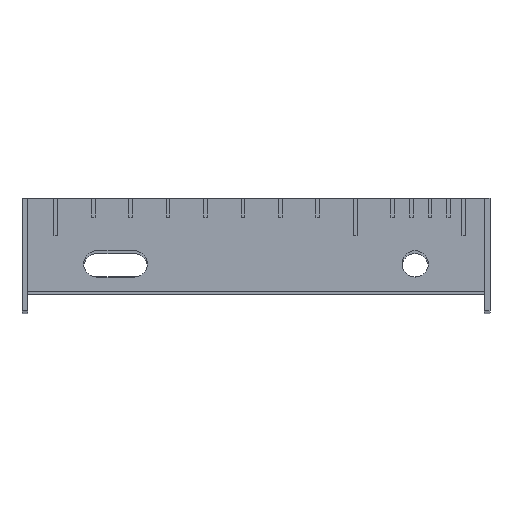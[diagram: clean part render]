
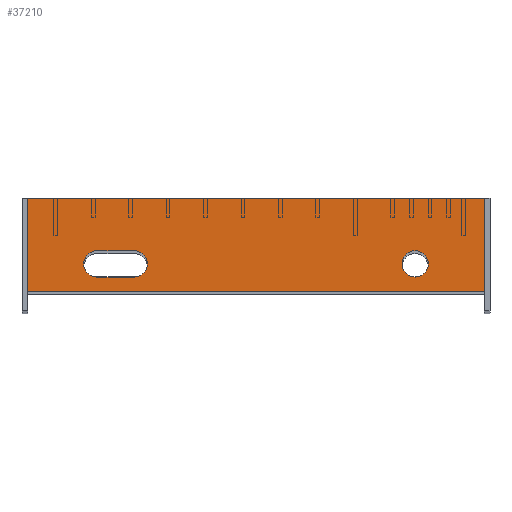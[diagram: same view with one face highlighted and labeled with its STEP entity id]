
A CAD part, top view. The second image highlights one B-rep face of the part: STEP entity #37210.
In plain terms, the highlighted planar face has unit normal (0, 0, 1).
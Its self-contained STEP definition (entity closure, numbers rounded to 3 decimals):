
#1346 = FACE_BOUND ( 'NONE', #13383, .T. ) ;
#1463 = EDGE_LOOP ( 'NONE', ( #58439, #56090, #4724, #34326 ) ) ;
#3205 = CARTESIAN_POINT ( 'NONE',  ( 244., 0., 0. ) ) ;
#4724 = ORIENTED_EDGE ( 'NONE', *, *, #18212, .T. ) ;
#4908 = VECTOR ( 'NONE', #21822, 1000. ) ;
#5035 = CARTESIAN_POINT ( 'NONE',  ( 214., 15., 0. ) ) ;
#6265 = LINE ( 'NONE', #47358, #56574 ) ;
#6297 = CARTESIAN_POINT ( 'NONE',  ( 0., 0., 0. ) ) ;
#8610 = EDGE_CURVE ( 'NONE', #35999, #18298, #55213, .T. ) ;
#8692 = EDGE_CURVE ( 'NONE', #51396, #51604, #39162, .T. ) ;
#8790 = CARTESIAN_POINT ( 'NONE',  ( 57., 15., 0. ) ) ;
#10312 = VECTOR ( 'NONE', #26718, 1000. ) ;
#11360 = VERTEX_POINT ( 'NONE', #5035 ) ;
#13383 = EDGE_LOOP ( 'NONE', ( #54368 ) ) ;
#13707 = DIRECTION ( 'NONE',  ( 1., 0., 0. ) ) ;
#13976 = DIRECTION ( 'NONE',  ( 0., 0., 1. ) ) ;
#14059 = CARTESIAN_POINT ( 'NONE',  ( 0., 0., 0. ) ) ;
#16902 = CARTESIAN_POINT ( 'NONE',  ( 0., 0., 0. ) ) ;
#17263 = AXIS2_PLACEMENT_3D ( 'NONE', #53292, #24131, #58194 ) ;
#18212 = EDGE_CURVE ( 'NONE', #18298, #28048, #22661, .T. ) ;
#18298 = VERTEX_POINT ( 'NONE', #38063 ) ;
#18978 = PLANE ( 'NONE',  #38577 ) ;
#19267 = EDGE_CURVE ( 'NONE', #59230, #19444, #23265, .T. ) ;
#19444 = VERTEX_POINT ( 'NONE', #52482 ) ;
#19942 = CARTESIAN_POINT ( 'NONE',  ( 37., 22., 0. ) ) ;
#20829 = EDGE_CURVE ( 'NONE', #46783, #35999, #6265, .T. ) ;
#21822 = DIRECTION ( 'NONE',  ( 1., 0., 0. ) ) ;
#21861 = CARTESIAN_POINT ( 'NONE',  ( 57., 8., 0. ) ) ;
#22227 = CARTESIAN_POINT ( 'NONE',  ( 57., 22., 0. ) ) ;
#22445 = DIRECTION ( 'NONE',  ( -1., 0., 0. ) ) ;
#22661 = LINE ( 'NONE', #3205, #59992 ) ;
#23265 = LINE ( 'NONE', #21861, #10312 ) ;
#23869 = DIRECTION ( 'NONE',  ( 0., 0., -1. ) ) ;
#23906 = AXIS2_PLACEMENT_3D ( 'NONE', #43125, #13976, #48047 ) ;
#24131 = DIRECTION ( 'NONE',  ( 0., 0., 1. ) ) ;
#25465 = CIRCLE ( 'NONE', #44573, 7. ) ;
#26718 = DIRECTION ( 'NONE',  ( 1., 0., 0. ) ) ;
#28048 = VERTEX_POINT ( 'NONE', #38549 ) ;
#32729 = EDGE_CURVE ( 'NONE', #11360, #11360, #60589, .T. ) ;
#33796 = VECTOR ( 'NONE', #53463, 1000. ) ;
#34085 = CARTESIAN_POINT ( 'NONE',  ( 0., 50., 0. ) ) ;
#34326 = ORIENTED_EDGE ( 'NONE', *, *, #57672, .T. ) ;
#35512 = CARTESIAN_POINT ( 'NONE',  ( 0., 50., 0. ) ) ;
#35542 = ORIENTED_EDGE ( 'NONE', *, *, #19267, .F. ) ;
#35999 = VERTEX_POINT ( 'NONE', #6297 ) ;
#36972 = VECTOR ( 'NONE', #22445, 1000. ) ;
#37210 = ADVANCED_FACE ( 'NONE', ( #51643, #1346, #38617 ), #18978, .F. ) ;
#38063 = CARTESIAN_POINT ( 'NONE',  ( 244., 0., 0. ) ) ;
#38195 = ORIENTED_EDGE ( 'NONE', *, *, #54189, .F. ) ;
#38549 = CARTESIAN_POINT ( 'NONE',  ( 244., 50., 0. ) ) ;
#38577 = AXIS2_PLACEMENT_3D ( 'NONE', #14059, #23869, #57943 ) ;
#38617 = FACE_OUTER_BOUND ( 'NONE', #1463, .T. ) ;
#39162 = LINE ( 'NONE', #22227, #36972 ) ;
#40473 = ORIENTED_EDGE ( 'NONE', *, *, #8692, .F. ) ;
#42841 = DIRECTION ( 'NONE',  ( 0., 0., 1. ) ) ;
#43125 = CARTESIAN_POINT ( 'NONE',  ( 207., 15., 0. ) ) ;
#43971 = EDGE_CURVE ( 'NONE', #19444, #51396, #25465, .T. ) ;
#44573 = AXIS2_PLACEMENT_3D ( 'NONE', #8790, #42841, #13707 ) ;
#46783 = VERTEX_POINT ( 'NONE', #35512 ) ;
#47358 = CARTESIAN_POINT ( 'NONE',  ( 0., 0., 0. ) ) ;
#47415 = EDGE_LOOP ( 'NONE', ( #40473, #53843, #35542, #38195 ) ) ;
#48047 = DIRECTION ( 'NONE',  ( 1., 0., 0. ) ) ;
#51385 = LINE ( 'NONE', #34085, #33796 ) ;
#51396 = VERTEX_POINT ( 'NONE', #57201 ) ;
#51604 = VERTEX_POINT ( 'NONE', #19942 ) ;
#51643 = FACE_BOUND ( 'NONE', #47415, .T. ) ;
#52482 = CARTESIAN_POINT ( 'NONE',  ( 57., 8., 0. ) ) ;
#52488 = CIRCLE ( 'NONE', #17263, 7. ) ;
#53292 = CARTESIAN_POINT ( 'NONE',  ( 37., 15., 0. ) ) ;
#53463 = DIRECTION ( 'NONE',  ( -1., 0., 0. ) ) ;
#53843 = ORIENTED_EDGE ( 'NONE', *, *, #43971, .F. ) ;
#54189 = EDGE_CURVE ( 'NONE', #51604, #59230, #52488, .T. ) ;
#54368 = ORIENTED_EDGE ( 'NONE', *, *, #32729, .F. ) ;
#55213 = LINE ( 'NONE', #16902, #4908 ) ;
#55669 = CARTESIAN_POINT ( 'NONE',  ( 37., 8., 0. ) ) ;
#56090 = ORIENTED_EDGE ( 'NONE', *, *, #8610, .T. ) ;
#56574 = VECTOR ( 'NONE', #62063, 1000. ) ;
#56660 = DIRECTION ( 'NONE',  ( 0., 1., 0. ) ) ;
#57201 = CARTESIAN_POINT ( 'NONE',  ( 57., 22., 0. ) ) ;
#57672 = EDGE_CURVE ( 'NONE', #28048, #46783, #51385, .T. ) ;
#57943 = DIRECTION ( 'NONE',  ( -1., 0., 0. ) ) ;
#58194 = DIRECTION ( 'NONE',  ( 1., 0., 0. ) ) ;
#58439 = ORIENTED_EDGE ( 'NONE', *, *, #20829, .T. ) ;
#59230 = VERTEX_POINT ( 'NONE', #55669 ) ;
#59992 = VECTOR ( 'NONE', #56660, 1000. ) ;
#60589 = CIRCLE ( 'NONE', #23906, 7. ) ;
#62063 = DIRECTION ( 'NONE',  ( 0., -1., 0. ) ) ;
